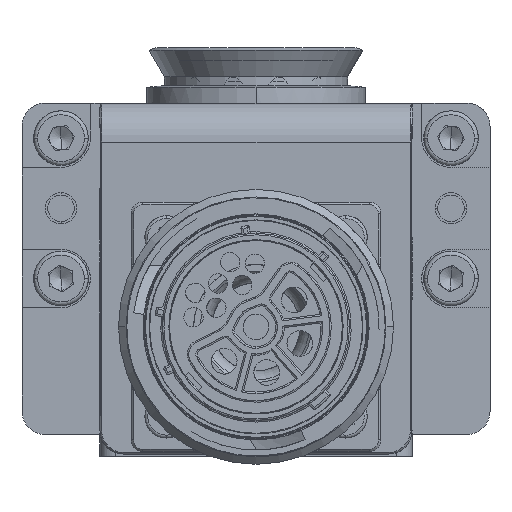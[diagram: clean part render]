
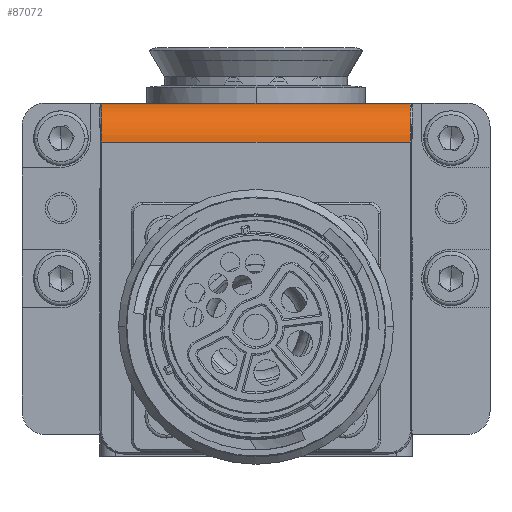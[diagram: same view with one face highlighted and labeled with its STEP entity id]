
A CAD part, front view. The second image highlights one B-rep face of the part: STEP entity #87072.
In plain terms, the highlighted cylindrical face has radius 5 mm (diameter 10 mm), a partial arc.
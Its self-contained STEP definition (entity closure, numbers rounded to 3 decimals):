
#1554 = VERTEX_POINT ( 'NONE', #67962 ) ;
#3220 = ORIENTED_EDGE ( 'NONE', *, *, #42469, .T. ) ;
#7168 = CARTESIAN_POINT ( 'NONE',  ( -19.8, -16.25, -5. ) ) ;
#7995 = ORIENTED_EDGE ( 'NONE', *, *, #51488, .F. ) ;
#9078 = AXIS2_PLACEMENT_3D ( 'NONE', #85134, #42798, #92364 ) ;
#9114 = CARTESIAN_POINT ( 'NONE',  ( -19.8, -16.25, 0. ) ) ;
#13053 = DIRECTION ( 'NONE',  ( 0., 0., -1. ) ) ;
#14467 = DIRECTION ( 'NONE',  ( 0., 0., 1. ) ) ;
#14652 = AXIS2_PLACEMENT_3D ( 'NONE', #7168, #56993, #14467 ) ;
#15157 = VERTEX_POINT ( 'NONE', #9114 ) ;
#16570 = DIRECTION ( 'NONE',  ( -1., 0., 0. ) ) ;
#17836 = CARTESIAN_POINT ( 'NONE',  ( 19.8, -21.25, -5. ) ) ;
#26729 = VERTEX_POINT ( 'NONE', #17836 ) ;
#27211 = DIRECTION ( 'NONE',  ( 1., 0., 0. ) ) ;
#29830 = EDGE_CURVE ( 'NONE', #15157, #1554, #78822, .T. ) ;
#33154 = ORIENTED_EDGE ( 'NONE', *, *, #29830, .T. ) ;
#34764 = AXIS2_PLACEMENT_3D ( 'NONE', #55619, #27211, #13053 ) ;
#38291 = CARTESIAN_POINT ( 'NONE',  ( 0., -21.25, -5. ) ) ;
#42469 = EDGE_CURVE ( 'NONE', #90464, #15157, #47976, .T. ) ;
#42798 = DIRECTION ( 'NONE',  ( -1., 0., 0. ) ) ;
#45410 = DIRECTION ( 'NONE',  ( -1., 0., 0. ) ) ;
#45538 = EDGE_LOOP ( 'NONE', ( #7995, #49814, #3220, #33154 ) ) ;
#47976 = LINE ( 'NONE', #59013, #83372 ) ;
#49814 = ORIENTED_EDGE ( 'NONE', *, *, #61833, .T. ) ;
#51112 = CYLINDRICAL_SURFACE ( 'NONE', #34764, 5. ) ;
#51488 = EDGE_CURVE ( 'NONE', #26729, #1554, #60420, .T. ) ;
#55619 = CARTESIAN_POINT ( 'NONE',  ( -19.8, -16.25, -5. ) ) ;
#56993 = DIRECTION ( 'NONE',  ( 1., 0., 0. ) ) ;
#59013 = CARTESIAN_POINT ( 'NONE',  ( 0., -16.25, 0. ) ) ;
#60420 = LINE ( 'NONE', #38291, #74839 ) ;
#61833 = EDGE_CURVE ( 'NONE', #26729, #90464, #81677, .T. ) ;
#67962 = CARTESIAN_POINT ( 'NONE',  ( -19.8, -21.25, -5. ) ) ;
#72114 = FACE_OUTER_BOUND ( 'NONE', #45538, .T. ) ;
#74839 = VECTOR ( 'NONE', #45410, 1000. ) ;
#75917 = CARTESIAN_POINT ( 'NONE',  ( 19.8, -16.25, 0. ) ) ;
#78822 = CIRCLE ( 'NONE', #14652, 5. ) ;
#81677 = CIRCLE ( 'NONE', #9078, 5. ) ;
#83372 = VECTOR ( 'NONE', #16570, 1000. ) ;
#85134 = CARTESIAN_POINT ( 'NONE',  ( 19.8, -16.25, -5. ) ) ;
#87072 = ADVANCED_FACE ( 'NONE', ( #72114 ), #51112, .T. ) ;
#90464 = VERTEX_POINT ( 'NONE', #75917 ) ;
#92364 = DIRECTION ( 'NONE',  ( 0., 0., 1. ) ) ;
